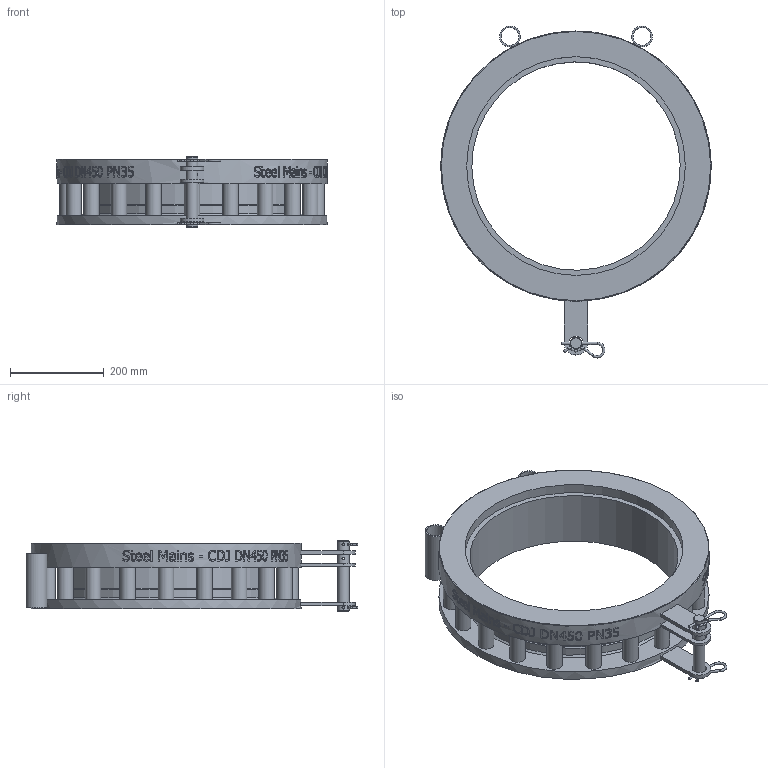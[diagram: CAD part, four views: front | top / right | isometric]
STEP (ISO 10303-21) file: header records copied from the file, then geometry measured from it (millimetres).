
FILE_DESCRIPTION(/* description */ (''),/* implementation_level */ '2;1');
FILE_NAME(/* name */ 'C:\Vault\Designs\Somerton\196\196-36 Models\Marketing Files\SteelMains - CDJ DN450 PN35 - (196-36T rev B).stp',/* time_stamp */ '2025-09-29T10:34:18+10:00',/* author */ ('Sam.Cavallaro'),/* organization */ (''),/* preprocessor_version */ 'ST-DEVELOPER v18.1',/* originating_system */ 'Autodesk Inventor 2021',/* authorisation */ '');
FILE_SCHEMA (('AUTOMOTIVE_DESIGN { 1 0 10303 214 3 1 1 }'));
Length unit declared in the file: millimetre
Products named in the file (1): SPS_ENG-084813
Bounding box: 577 x 708.82 x 151 mm (x, y, z)
Volume: 9553732.9 mm3; surface area: 1046348.4 mm2
Topology: 6 solids, 6 shells, 855 faces, 2334 edges, 1557 vertices
Faces by surface type: bspline 394, plane 331, cylinder 117, torus 8, cone 5
Full cylindrical faces by diameter (mm): 4.8 x10, 6 x3, 25 x1, 30 x3, 33 x20, 38.1 x2, 44.5 x2, 445 x1, 461 x1, 465 x1, 467 x1, 577 x1
Entity records: 37434 total; most frequent: CARTESIAN_POINT 17742, ORIENTED_EDGE 4674, DIRECTION 2883, EDGE_CURVE 2337, VERTEX_POINT 1560, LINE 1095, VECTOR 1095, EDGE_LOOP 979
